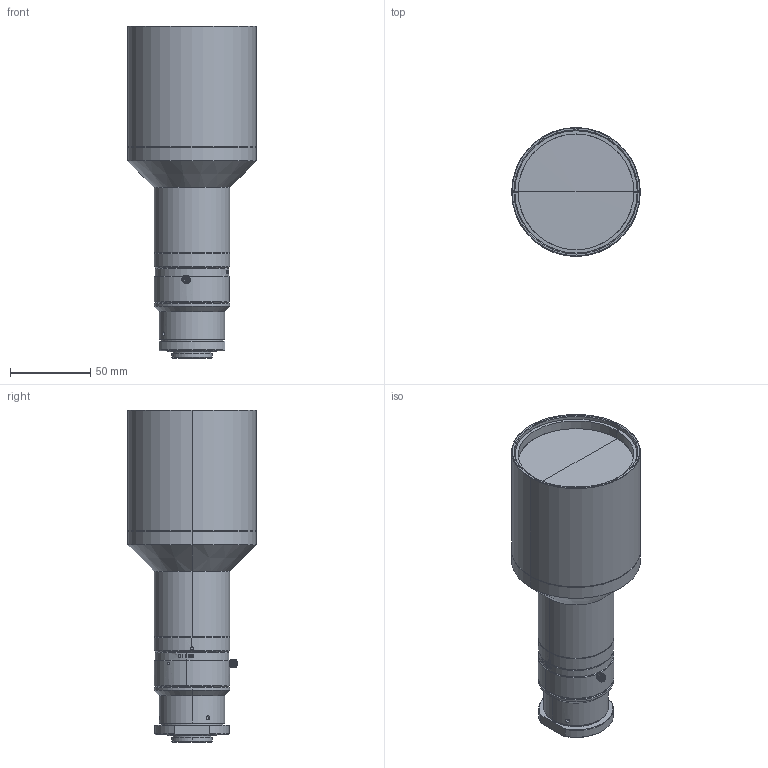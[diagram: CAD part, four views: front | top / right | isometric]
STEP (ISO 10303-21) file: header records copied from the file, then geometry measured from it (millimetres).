
FILE_DESCRIPTION (( 'STEP AP203' ), '1' );
FILE_NAME ('A21914_MML0275-SR130VI-18C.STEP', '2016-02-23T06:21:50', ( '' ), ( '' ), 'SwSTEP 2.0', 'SolidWorks 2014', '' );
FILE_SCHEMA (( 'CONFIG_CONTROL_DESIGN' ));
Length unit declared in the file: millimetre
Products named in the file (1): A21914_MML0275-SR130VI-18C
Bounding box: 80 x 80 x 206.42 mm (x, y, z)
Volume: 598934.5 mm3; surface area: 55218.8 mm2
Topology: 1 solids, 2 shells, 417 faces, 1047 edges, 669 vertices
Faces by surface type: plane 154, cylinder 144, cone 77, bspline 36, torus 4, sphere 2
Entity records: 19318 total; most frequent: CARTESIAN_POINT 9892, ORIENTED_EDGE 2086, DIRECTION 1712, EDGE_CURVE 1043, VERTEX_POINT 669, AXIS2_PLACEMENT_3D 667, EDGE_LOOP 458, FACE_OUTER_BOUND 417
